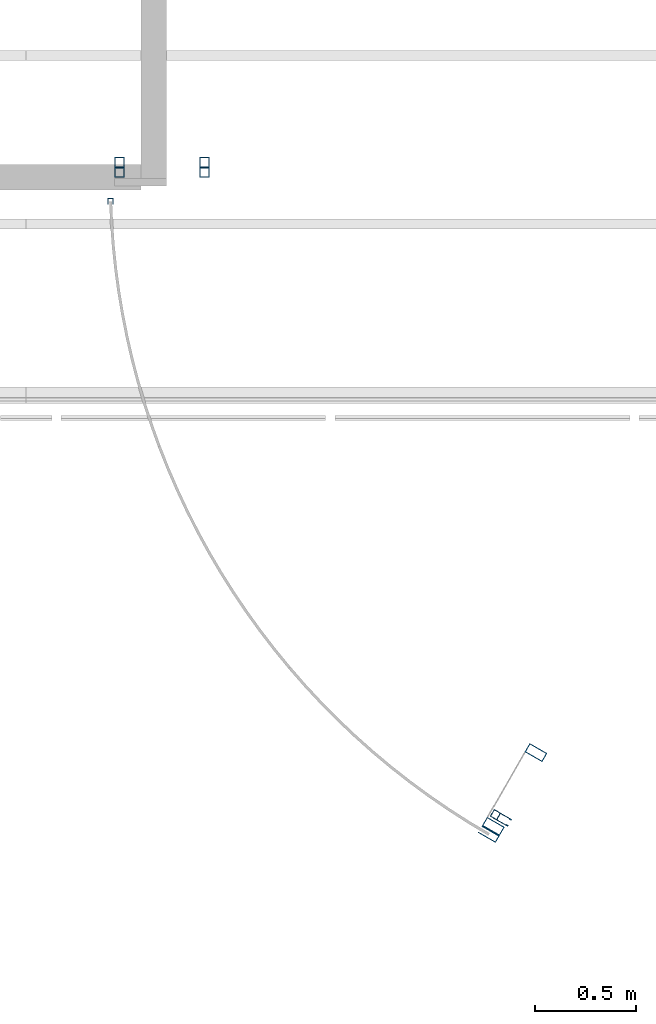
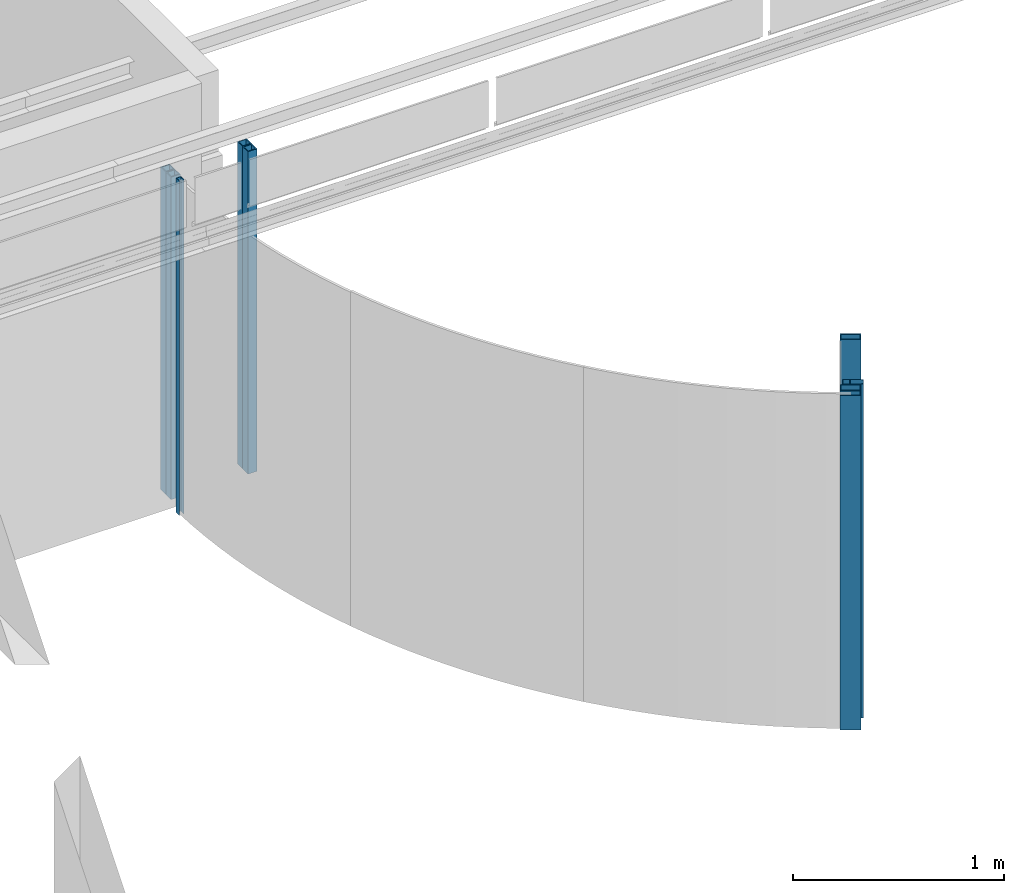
# One storey, part 1 of 11: 9 columns, 2 openings.
"""IFC2X3 building model written with IfcOpenShell, lengths in millimetres."""

from ifc_helpers import new_model, entity, si_unit, converted_unit, derived_unit, direction, frame, frame_2d, origin, origin_with_axes, origin_2d_with_axis, place, context, subcontext, project, spatial, polyline, rectangle, outline, extrude, faceted_brep, source, transform, mapped, material, type_object, element, save


model = new_model("IFC2X3")

# Units and contexts
model_context = context("Model", 3, precision=0.01, world=frame((0.0, 4.29681676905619e-09, 0.0)), true_north=direction((4.01073788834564e-13, 1.0)))
plan_context = context("Plan", 3, precision=0.01, world=frame((0.0, 4.29681676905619e-09, 0.0)), true_north=direction((4.01073788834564e-13, 1.0)))
body_context = subcontext(model_context, "Body", "Model", "MODEL_VIEW")
ifc_project = project(units=[converted_unit("PLANEANGLEUNIT", "DEGREE", entity("IfcPositiveLengthMeasure", 0.0174532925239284), si_unit("PLANEANGLEUNIT", "RADIAN"), dimensions=[0, 0, 0, 0, 0, 0, 0]), si_unit("AREAUNIT", "SQUARE_METRE"), si_unit("LENGTHUNIT", "METRE", prefix="MILLI"), si_unit("MASSUNIT", "GRAM", prefix="KILO"), si_unit("POWERUNIT", "WATT"), si_unit("PRESSUREUNIT", "PASCAL"), si_unit("FORCEUNIT", "NEWTON", prefix="KILO"), si_unit("ELECTRICVOLTAGEUNIT", "VOLT"), si_unit("ELECTRICCURRENTUNIT", "AMPERE"), si_unit("THERMODYNAMICTEMPERATUREUNIT", "DEGREE_CELSIUS"), si_unit("TIMEUNIT", "SECOND"), si_unit("VOLUMEUNIT", "CUBIC_METRE"), derived_unit("LINEARVELOCITYUNIT", [(si_unit("LENGTHUNIT", "METRE"), 1), (si_unit("TIMEUNIT", "SECOND"), -1)]), derived_unit("VOLUMETRICFLOWRATEUNIT", [(si_unit("VOLUMEUNIT", "CUBIC_METRE"), 1), (si_unit("TIMEUNIT", "SECOND"), -1)]), derived_unit("THERMALTRANSMITTANCEUNIT", [(si_unit("POWERUNIT", "WATT"), 1), (si_unit("THERMODYNAMICTEMPERATUREUNIT", "KELVIN"), -1), (si_unit("AREAUNIT", "SQUARE_METRE"), -1)]), derived_unit("SOUNDPRESSUREUNIT", [(si_unit("PRESSUREUNIT", "PASCAL"), 1)])], contexts=[model_context, plan_context])

# Site, building, storey
site_placement = place(None, origin_with_axes())
site = spatial("IfcSite", under=ifc_project, at=site_placement, Name="ENGM", CompositionType="ELEMENT")
building_placement = place(site_placement, origin_with_axes())
building = spatial("IfcBuilding", under=site, at=building_placement, Name="TH", CompositionType="ELEMENT")
storey_placement = place(building_placement, frame((0.0, 0.0, 210900.0), z_axis=(0.0, 0.0, 1.0), x_axis=(1.0, 0.0, 0.0)))
storey = spatial("IfcBuildingStorey", under=building, at=storey_placement, Name="Nivå F", CompositionType="ELEMENT", Elevation=210900.0)

# Columns
ifc_material = material(Name="_NSW Stål")
column_type_1 = type_object("IfcColumnType", Name="A241 - Glassramme Book Shop:A241 - 30x27mm", PredefinedType="COLUMN", material=ifc_material)
shared_shape_1 = source(origin(), body_context, "Body", "Brep", [
    faceted_brep([(-11.4999999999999, -15.0, 212835.0), (-13.4999999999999, -15.0, 212835.0), (-13.4999999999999, -15.0, 210900.0), (-11.4999999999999, -15.0, 210900.0), (-11.4999999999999, 13.0, 212835.0), (-11.4999999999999, 13.0, 210900.0), (11.5000000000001, 13.0, 212835.0), (11.5000000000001, 13.0, 210900.0), (11.5000000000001, -15.0, 212835.0), (11.5000000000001, -15.0, 210900.0), (13.5000000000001, -15.0, 212835.0), (13.5000000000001, -15.0, 210900.0), (13.5000000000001, 15.0, 212835.0), (13.5000000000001, 15.0, 210900.0), (-13.4999999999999, 15.0, 212835.0), (-13.4999999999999, 15.0, 210900.0)], [[[0, 1, 2, 3]], [[4, 0, 3, 5]], [[6, 4, 5, 7]], [[8, 6, 7, 9]], [[10, 8, 9, 11]], [[12, 10, 11, 13]], [[14, 12, 13, 15]], [[1, 14, 15, 2]], [[1, 0, 4, 6, 8, 10, 12, 14]], [[3, 2, 15, 13, 11, 9, 7, 5]]]),
])
column_1_placement = place(storey_placement, frame((898416.697270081, 481876.850363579, -210900.0), z_axis=(0.0, 0.0, 1.0), x_axis=(1.0, 0.0, 0.0)))
element("IfcColumn", 1, at=column_1_placement, inside=storey, type_object=column_type_1, material=ifc_material, Name="A241 - Glassramme Book Shop:A241 - 30x27mm", ObjectType="A241 - Glassramme Book Shop:A241 - 30x27mm", context=body_context, shape_type="MappedRepresentation", body=[
    mapped(shared_shape_1, transform((0.0, 0.0, 0.0), scale=1.0)),
])
column_type_2 = type_object("IfcColumnType", Name="B222 - HUP7:B222 - HUP 50x50x5", PredefinedType="COLUMN", material=ifc_material)
shared_shape_2 = source(origin(), body_context, "Body", "SweptSolid", [
    extrude(outline(polyline([(-25.0, -25.0), (25.0, -25.0), (25.0, 25.0), (-25.0, 25.0), (-25.0, -25.0)]), holes=[polyline([(-20.0, -20.0), (-20.0, 20.0), (20.0, 20.0), (20.0, -20.0), (-20.0, -20.0)])]), frame((0.0, 0.0, 210900.0), z_axis=(0.0, 0.0, 1.0), x_axis=(-1.0, 0.0, 0.0)), (0.0, 0.0, 1.0), 1864.99999999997),
])
for number, where, z_axis, x_axis in (
    (2, (898460.133962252, 482019.616538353, -210900.0), (0.0, 0.0, 1.0), (0.0, 1.0, 0.0)),
    (3, (898879.999999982, 482019.616538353, -210900.0), (0.0, 0.0, 1.0), (0.0, 1.0, 0.0)),
    (4, (898460.133962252, 482069.616538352, -210900.0), (0.0, 0.0, 1.0), (0.0, 1.0, 0.0)),
    (5, (898880.133962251, 482069.616538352, -210900.0), (0.0, 0.0, 1.0), (0.0, 1.0, 0.0)),
):
    element("IfcColumn", number, at=place(storey_placement, frame(where, z_axis=z_axis, x_axis=x_axis)), inside=storey, type_object=column_type_2, material=ifc_material, Name="B222 - HUP7:B222 - HUP 50x50x5", ObjectType="B222 - HUP7:B222 - HUP 50x50x5", context=body_context, shape_type="MappedRepresentation", body=[
        mapped(shared_shape_2, transform((0.0, 0.0, 0.0), scale=1.0)),
    ])

# Column, opening
column_type_3 = type_object("IfcColumnType", Name="B222 - HUP7:B222 - HUP 100x50x5", PredefinedType="COLUMN", material=ifc_material)
shared_shape_3 = source(origin(), body_context, "Body", "SweptSolid", [
    extrude(rectangle(XDim=1934.99999999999, YDim=100.0, at=frame_2d((1.73372427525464e-11, 0.0), x_axis=(1.0, 0.0))), frame((-25.0, 0.0, 211867.5), z_axis=(1.0, 0.0, 0.0), x_axis=(0.0, 0.0, -1.0)), (0.0, 0.0, 1.0), 50.0),
])
column_2_placement = place(storey_placement, frame((900514.036592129, 479158.244775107, -210900.0), z_axis=(0.0, 0.0, 1.0), x_axis=(0.500000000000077, 0.866025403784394, 0.0)))
column_2 = element("IfcColumn", 6, at=column_2_placement, inside=storey, type_object=column_type_3, material=ifc_material, Name="B222 - HUP7:B222 - HUP 100x50x5", ObjectType="B222 - HUP7:B222 - HUP 100x50x5", context=body_context, shape_type="MappedRepresentation", body=[
    mapped(shared_shape_3, transform((0.0, 0.0, 0.0), scale=1.0)),
])
opening_1_placement = place(column_2_placement, frame((0.0, 0.0, 210900.0), z_axis=(0.0, 0.0, 1.0), x_axis=(0.500000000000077, 0.866025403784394, 0.0)))
element("IfcOpeningElement", 7, at=opening_1_placement, cuts=column_2, Name="B222 - HUP7:B222 - HUP 100x50x5:1", ObjectType="Opening", context=body_context, shape_type="SweptSolid", body=[
    extrude(rectangle(XDim=90.0, YDim=39.9999999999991, at=origin_2d_with_axis()), frame((0.0, 0.0, 1935.0), z_axis=(0.0, 0.0, -1.0), x_axis=(-0.866025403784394, -0.500000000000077, 0.0)), (0.0, 0.0, 1.0), 1934.99999999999),
])

column_type_4 = type_object("IfcColumnType", Name="B222 - HUP7:B222 - HUP 100x50x5", PredefinedType="COLUMN", material=ifc_material)
column_3_placement = place(storey_placement, frame((900304.037776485, 478794.516156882, -210900.0), z_axis=(0.0, 0.0, 1.0), x_axis=(0.500000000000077, 0.866025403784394, 0.0)))
column_3 = element("IfcColumn", 8, at=column_3_placement, inside=storey, type_object=column_type_4, material=ifc_material, Name="B222 - HUP7:B222 - HUP 100x50x5", ObjectType="B222 - HUP7:B222 - HUP 100x50x5", context=body_context, shape_type="MappedRepresentation", body=[
    mapped(shared_shape_3, transform((0.0, 0.0, 0.0), scale=1.0)),
])
opening_2_placement = place(column_3_placement, frame((0.0, 0.0, 210900.0), z_axis=(0.0, 0.0, 1.0), x_axis=(0.500000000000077, 0.866025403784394, 0.0)))
element("IfcOpeningElement", 9, at=opening_2_placement, cuts=column_3, Name="B222 - HUP7:B222 - HUP 100x50x5:1", ObjectType="Opening", context=body_context, shape_type="SweptSolid", body=[
    extrude(rectangle(XDim=90.0, YDim=39.9999999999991, at=origin_2d_with_axis()), frame((0.0, 0.0, 1935.0), z_axis=(0.0, 0.0, -1.0), x_axis=(-0.866025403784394, -0.500000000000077, 0.0)), (0.0, 0.0, 1.0), 1934.99999999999),
])

# Columns
column_type_5 = type_object("IfcColumnType", Name="A243 - Rullegardinskinner:A243 - Portskinne Book Shop", PredefinedType="COLUMN", material=ifc_material)
shared_shape_4 = source(origin(), body_context, "Body", "Brep", [
    faceted_brep([(-20.0, 100.0, 212830.0), (-14.0, 100.0, 212830.0), (-14.0, 100.0, 210900.0), (-20.0, 100.0, 210900.0), (-14.0, 90.0, 212830.0), (-14.0, 90.0, 210900.0), (-17.0, 90.0, 212830.0), (-17.0, 90.0, 210900.0), (-17.0, 38.0, 212830.0), (-17.0, 38.0, 210900.0), (17.0, 38.0, 212830.0), (17.0, 38.0, 210900.0), (17.0, 90.0, 212830.0), (17.0, 90.0, 210900.0), (14.0, 90.0, 212830.0), (14.0, 90.0, 210900.0), (14.0, 100.0, 212830.0), (14.0, 100.0, 210900.0), (20.0, 100.0, 212830.0), (20.0, 100.0, 210900.0), (20.0, 0.0, 212830.0), (20.0, 0.0, 210900.0), (-20.0, 0.0, 212830.0), (-20.0, 0.0, 210900.0), (-17.0, 35.0, 212830.0), (-17.0, 3.0, 212830.0), (-17.0, 3.0, 210900.0), (-17.0, 35.0, 210900.0), (17.0, 3.0, 212830.0), (17.0, 3.0, 210900.0), (17.0, 35.0, 212830.0), (17.0, 35.0, 210900.0)], [[[0, 1, 2, 3]], [[1, 4, 5, 2]], [[4, 6, 7, 5]], [[6, 8, 9, 7]], [[8, 10, 11, 9]], [[10, 12, 13, 11]], [[12, 14, 15, 13]], [[14, 16, 17, 15]], [[16, 18, 19, 17]], [[18, 20, 21, 19]], [[20, 22, 23, 21]], [[22, 0, 3, 23]], [[24, 25, 26, 27]], [[25, 28, 29, 26]], [[28, 30, 31, 29]], [[30, 24, 27, 31]], [[1, 0, 22, 20, 18, 16, 14, 12, 10, 8, 6, 4], [25, 24, 30, 28]], [[3, 2, 5, 7, 9, 11, 13, 15, 17, 19, 21, 23], [27, 26, 29, 31]]]),
])
column_4_placement = place(storey_placement, frame((900297.891278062, 478861.525063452, -210900.0), z_axis=(0.0, 0.0, 1.0), x_axis=(-0.499999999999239, -0.866025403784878, 0.0)))
element("IfcColumn", 10, at=column_4_placement, inside=storey, type_object=column_type_5, material=ifc_material, Name="A243 - Rullegardinskinner:A243 - Portskinne Book Shop", ObjectType="A243 - Rullegardinskinner:A243 - Portskinne Book Shop", context=body_context, shape_type="MappedRepresentation", body=[
    mapped(shared_shape_4, transform((0.0, 0.0, 0.0), scale=1.0)),
])
column_type_6 = type_object("IfcColumnType", Name="A241 - Glassramme Book Shop:A241 - 100x40mm", PredefinedType="COLUMN", material=ifc_material)
shared_shape_5 = source(origin(), body_context, "Body", "Brep", [
    faceted_brep([(-15.0, -50.0, 212835.0), (-20.0, -50.0, 212835.0), (-20.0, -50.0, 210900.0), (-15.0, -50.0, 210900.0), (-15.0, 45.0, 212835.0), (-15.0, 45.0, 210900.0), (15.0, 45.0, 212835.0), (15.0, 45.0, 210900.0), (15.0, -50.0, 212835.0), (15.0, -50.0, 210900.0), (20.0, -50.0, 212835.0), (20.0, -50.0, 210900.0), (20.0, 50.0, 212835.0), (20.0, 50.0, 210900.0), (-20.0, 50.0, 212835.0), (-20.0, 50.0, 210900.0)], [[[0, 1, 2, 3]], [[4, 0, 3, 5]], [[6, 4, 5, 7]], [[8, 6, 7, 9]], [[10, 8, 9, 11]], [[12, 10, 11, 13]], [[14, 12, 13, 15]], [[1, 14, 15, 2]], [[1, 0, 4, 6, 8, 10, 12, 14]], [[3, 2, 15, 13, 11, 9, 7, 5]]]),
])
column_5_placement = place(storey_placement, frame((900281.537776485, 478755.545013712, -210900.0), z_axis=(0.0, 0.0, 1.0), x_axis=(-0.499999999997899, -0.866025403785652, 0.0)))
element("IfcColumn", 11, at=column_5_placement, inside=storey, type_object=column_type_6, material=ifc_material, Name="A241 - Glassramme Book Shop:A241 - 100x40mm", ObjectType="A241 - Glassramme Book Shop:A241 - 100x40mm", context=body_context, shape_type="MappedRepresentation", body=[
    mapped(shared_shape_5, transform((0.0, 0.0, 0.0), scale=1.0)),
])

save(model, "model.ifc")
